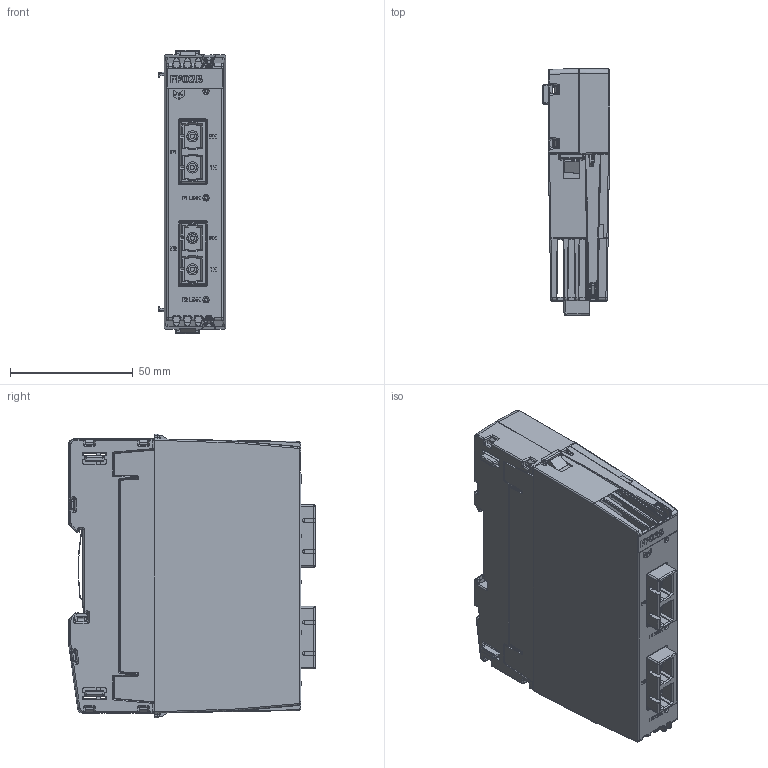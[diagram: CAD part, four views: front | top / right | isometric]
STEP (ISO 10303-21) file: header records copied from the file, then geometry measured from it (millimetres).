
FILE_DESCRIPTION(/* description */ (''),/* implementation_level */ '2;1');
FILE_NAME(/* name */ 'C:\Users\Public\Documents\Autodesk\Inventor 2023\FP02B_Simplified+BackBB81A.stp',/* time_stamp */ '2024-11-12T20:47:09+01:00',/* author */ ('shoma'),/* organization */ (''),/* preprocessor_version */ 'ST-DEVELOPER v19',/* originating_system */ 'Autodesk Inventor 2023',/* authorisation */ '');
FILE_SCHEMA (('AUTOMOTIVE_DESIGN { 1 0 10303 214 3 1 1 }'));
Products named in the file (1): FP02B_Simplified+BackBB81A
Bounding box: 27.4 x 100.39 x 115.5 mm (x, y, z)
Volume: 132117.2 mm3; surface area: 78256.6 mm2
Topology: 8 solids, 8 shells, 4846 faces, 13002 edges, 8119 vertices
Faces by surface type: plane 2405, cylinder 1724, bspline 523, sphere 156, torus 23, cone 15
Full cylindrical faces by diameter (mm): 0.016 x2, 0.3 x38, 0.7 x36, 0.8 x6, 0.85 x24, 0.9 x8, 1 x8, 1.27 x4, 1.4 x4, 1.6 x2, 1.762 x4, 1.9 x4, 2.35 x2, 2.5 x1, 3 x1, 3.25 x2, 3.369 x4, 4.519 x4
Entity records: 169301 total; most frequent: CARTESIAN_POINT 43646, ORIENTED_EDGE 25696, DIRECTION 24598, EDGE_CURVE 12848, LINE 8316, VECTOR 8316, AXIS2_PLACEMENT_3D 8141, VERTEX_POINT 8119
